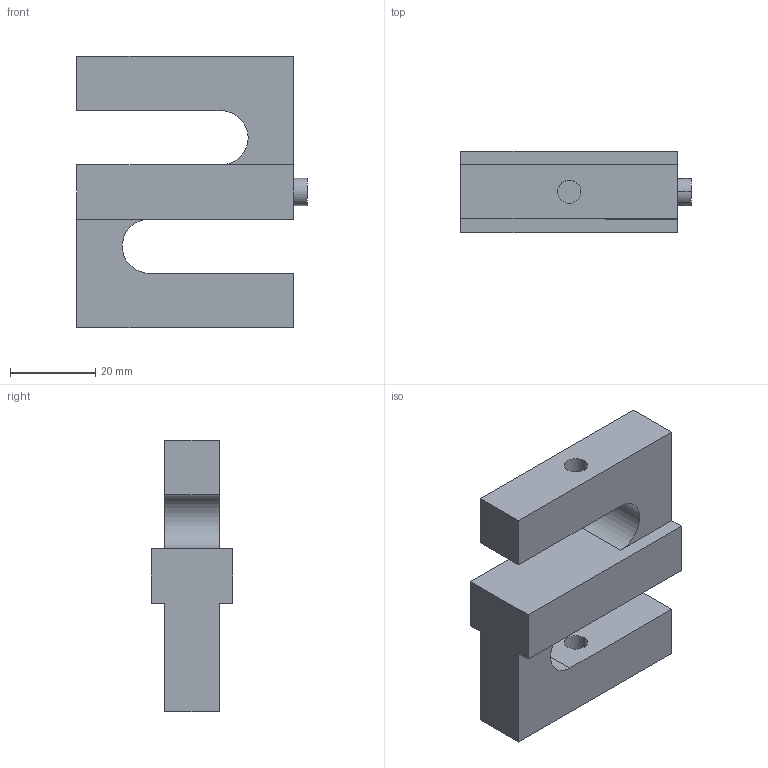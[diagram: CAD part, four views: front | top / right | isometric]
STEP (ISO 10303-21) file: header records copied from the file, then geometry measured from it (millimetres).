
FILE_DESCRIPTION (( 'STEP AP214' ), '1' );
FILE_NAME ('SS1009-200LB.STEP', '2014-05-20T18:51:56', ( '' ), ( '' ), 'SwSTEP 2.0', 'SolidWorks 2008', '' );
FILE_SCHEMA (( 'AUTOMOTIVE_DESIGN' ));
Length unit declared in the file: inch
Products named in the file (1): SS1009-200LB
Bounding box: 53.98 x 19.05 x 63.5 mm (x, y, z)
Volume: 32074.9 mm3; surface area: 10495.1 mm2
Topology: 1 solids, 1 shells, 25 faces, 66 edges, 44 vertices
Faces by surface type: plane 17, cylinder 8
Entity records: 863 total; most frequent: CARTESIAN_POINT 136, DIRECTION 134, ORIENTED_EDGE 132, EDGE_CURVE 66, LINE 50, VECTOR 50, VERTEX_POINT 44, AXIS2_PLACEMENT_3D 42
